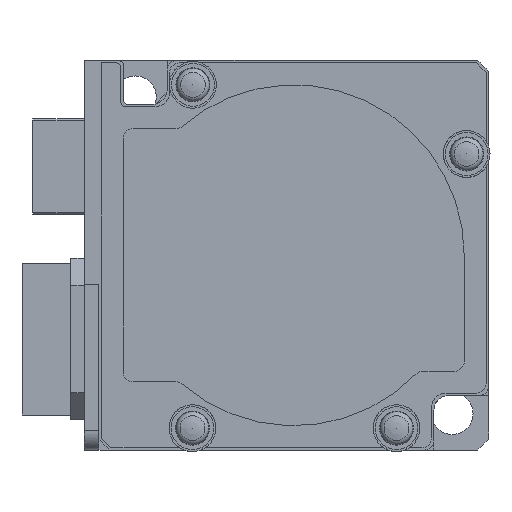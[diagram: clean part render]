
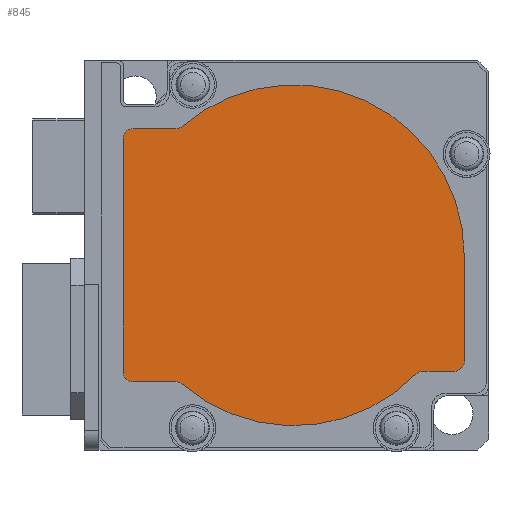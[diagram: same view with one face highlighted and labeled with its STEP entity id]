
A CAD part, left-side view. The second image highlights one B-rep face of the part: STEP entity #845.
In plain terms, the highlighted planar face has unit normal (-1, 0, 0).
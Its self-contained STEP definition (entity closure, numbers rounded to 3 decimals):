
#845 = ADVANCED_FACE( '', ( #2005 ), #2006, .F. );
#2005 = FACE_OUTER_BOUND( '', #3508, .T. );
#2006 = PLANE( '', #3509 );
#3508 = EDGE_LOOP( '', ( #6043, #6044, #6045, #6046, #6047, #6048, #6049, #6050, #6051, #6052, #6053, #6054, #6055 ) );
#3509 = AXIS2_PLACEMENT_3D( '', #6056, #6057, #6058 );
#6043 = ORIENTED_EDGE( '', *, *, #9202, .F. );
#6044 = ORIENTED_EDGE( '', *, *, #8946, .F. );
#6045 = ORIENTED_EDGE( '', *, *, #8767, .T. );
#6046 = ORIENTED_EDGE( '', *, *, #8560, .F. );
#6047 = ORIENTED_EDGE( '', *, *, #8507, .F. );
#6048 = ORIENTED_EDGE( '', *, *, #8621, .F. );
#6049 = ORIENTED_EDGE( '', *, *, #9302, .F. );
#6050 = ORIENTED_EDGE( '', *, *, #9303, .F. );
#6051 = ORIENTED_EDGE( '', *, *, #9304, .T. );
#6052 = ORIENTED_EDGE( '', *, *, #9305, .F. );
#6053 = ORIENTED_EDGE( '', *, *, #8954, .T. );
#6054 = ORIENTED_EDGE( '', *, *, #9306, .F. );
#6055 = ORIENTED_EDGE( '', *, *, #8966, .F. );
#6056 = CARTESIAN_POINT( '', ( -57.5, 0., 0. ) );
#6057 = DIRECTION( '', ( 1., 0., 0. ) );
#6058 = DIRECTION( '', ( 0., 0., -1. ) );
#8507 = EDGE_CURVE( '', #10132, #10133, #10134, .T. );
#8560 = EDGE_CURVE( '', #10133, #10221, #10222, .T. );
#8621 = EDGE_CURVE( '', #10323, #10132, #10324, .T. );
#8767 = EDGE_CURVE( '', #10586, #10221, #10587, .T. );
#8946 = EDGE_CURVE( '', #10586, #10899, #10900, .T. );
#8954 = EDGE_CURVE( '', #10911, #10912, #10913, .T. );
#8966 = EDGE_CURVE( '', #10929, #10930, #10931, .T. );
#9202 = EDGE_CURVE( '', #10899, #10929, #11267, .T. );
#9302 = EDGE_CURVE( '', #11414, #10323, #11415, .T. );
#9303 = EDGE_CURVE( '', #11416, #11414, #11417, .T. );
#9304 = EDGE_CURVE( '', #11416, #11418, #11419, .T. );
#9305 = EDGE_CURVE( '', #10911, #11418, #11420, .T. );
#9306 = EDGE_CURVE( '', #10930, #10912, #11421, .T. );
#10132 = VERTEX_POINT( '', #12466 );
#10133 = VERTEX_POINT( '', #12467 );
#10134 = CIRCLE( '', #12468, 1. );
#10221 = VERTEX_POINT( '', #12588 );
#10222 = LINE( '', #12589, #12590 );
#10323 = VERTEX_POINT( '', #12736 );
#10324 = LINE( '', #12737, #12738 );
#10586 = VERTEX_POINT( '', #13124 );
#10587 = CIRCLE( '', #13125, 1. );
#10899 = VERTEX_POINT( '', #13541 );
#10900 = CIRCLE( '', #13542, 17.5 );
#10911 = VERTEX_POINT( '', #13558 );
#10912 = VERTEX_POINT( '', #13559 );
#10913 = CIRCLE( '', #13560, 1. );
#10929 = VERTEX_POINT( '', #13584 );
#10930 = VERTEX_POINT( '', #13585 );
#10931 = CIRCLE( '', #13586, 1. );
#11267 = LINE( '', #14093, #14094 );
#11414 = VERTEX_POINT( '', #14301 );
#11415 = CIRCLE( '', #14302, 1. );
#11416 = VERTEX_POINT( '', #14303 );
#11417 = LINE( '', #14304, #14305 );
#11418 = VERTEX_POINT( '', #14306 );
#11419 = CIRCLE( '', #14307, 1. );
#11420 = CIRCLE( '', #14308, 17.5 );
#11421 = LINE( '', #14309, #14310 );
#12466 = CARTESIAN_POINT( '', ( -57.5, 17.5, 12. ) );
#12467 = CARTESIAN_POINT( '', ( -57.5, 16.5, 13. ) );
#12468 = AXIS2_PLACEMENT_3D( '', #15443, #15444, #15445 );
#12588 = CARTESIAN_POINT( '', ( -57.5, 12.093, 13. ) );
#12589 = CARTESIAN_POINT( '', ( -57.5, 16.5, 13. ) );
#12590 = VECTOR( '', #15494, 1000. );
#12736 = CARTESIAN_POINT( '', ( -57.5, 17.5, -12. ) );
#12737 = CARTESIAN_POINT( '', ( -57.5, 17.5, -12. ) );
#12738 = VECTOR( '', #15546, 1000. );
#13124 = CARTESIAN_POINT( '', ( -57.5, 11.44, 13.243 ) );
#13125 = AXIS2_PLACEMENT_3D( '', #15701, #15702, #15703 );
#13541 = CARTESIAN_POINT( '', ( -57.5, -17.5, 0. ) );
#13542 = AXIS2_PLACEMENT_3D( '', #15955, #15956, #15957 );
#13558 = CARTESIAN_POINT( '', ( -57.5, -12.544, -12.203 ) );
#13559 = CARTESIAN_POINT( '', ( -57.5, -13.26, -11.9 ) );
#13560 = AXIS2_PLACEMENT_3D( '', #15963, #15964, #15965 );
#13584 = CARTESIAN_POINT( '', ( -57.5, -17.5, -10.9 ) );
#13585 = CARTESIAN_POINT( '', ( -57.5, -16.5, -11.9 ) );
#13586 = AXIS2_PLACEMENT_3D( '', #15974, #15975, #15976 );
#14093 = CARTESIAN_POINT( '', ( -57.5, -17.5, 0. ) );
#14094 = VECTOR( '', #16189, 1000. );
#14301 = CARTESIAN_POINT( '', ( -57.5, 16.5, -13. ) );
#14302 = AXIS2_PLACEMENT_3D( '', #16286, #16287, #16288 );
#14303 = CARTESIAN_POINT( '', ( -57.5, 12.093, -13. ) );
#14304 = CARTESIAN_POINT( '', ( -57.5, 12.093, -13. ) );
#14305 = VECTOR( '', #16289, 1000. );
#14306 = CARTESIAN_POINT( '', ( -57.5, 11.44, -13.243 ) );
#14307 = AXIS2_PLACEMENT_3D( '', #16290, #16291, #16292 );
#14308 = AXIS2_PLACEMENT_3D( '', #16293, #16294, #16295 );
#14309 = CARTESIAN_POINT( '', ( -57.5, -16.5, -11.9 ) );
#14310 = VECTOR( '', #16296, 1000. );
#15443 = CARTESIAN_POINT( '', ( -57.5, 16.5, 12. ) );
#15444 = DIRECTION( '', ( 1., 0., 0. ) );
#15445 = DIRECTION( '', ( 0., 0., -1. ) );
#15494 = DIRECTION( '', ( 0., -1., 0. ) );
#15546 = DIRECTION( '', ( 0., 0., 1. ) );
#15701 = CARTESIAN_POINT( '', ( -57.5, 12.093, 14. ) );
#15702 = DIRECTION( '', ( 1., 0., 0. ) );
#15703 = DIRECTION( '', ( 0., 0., -1. ) );
#15955 = CARTESIAN_POINT( '', ( -57.5, 0., 0. ) );
#15956 = DIRECTION( '', ( 1., 0., 0. ) );
#15957 = DIRECTION( '', ( 0., 0., -1. ) );
#15963 = CARTESIAN_POINT( '', ( -57.5, -13.26, -12.9 ) );
#15964 = DIRECTION( '', ( 1., 0., 0. ) );
#15965 = DIRECTION( '', ( 0., 0., -1. ) );
#15974 = CARTESIAN_POINT( '', ( -57.5, -16.5, -10.9 ) );
#15975 = DIRECTION( '', ( 1., 0., 0. ) );
#15976 = DIRECTION( '', ( 0., 0., -1. ) );
#16189 = DIRECTION( '', ( 0., 0., -1. ) );
#16286 = CARTESIAN_POINT( '', ( -57.5, 16.5, -12. ) );
#16287 = DIRECTION( '', ( 1., 0., 0. ) );
#16288 = DIRECTION( '', ( 0., 0., -1. ) );
#16289 = DIRECTION( '', ( 0., 1., 0. ) );
#16290 = CARTESIAN_POINT( '', ( -57.5, 12.093, -14. ) );
#16291 = DIRECTION( '', ( 1., 0., 0. ) );
#16292 = DIRECTION( '', ( 0., 0., -1. ) );
#16293 = CARTESIAN_POINT( '', ( -57.5, 0., 0. ) );
#16294 = DIRECTION( '', ( 1., 0., 0. ) );
#16295 = DIRECTION( '', ( 0., 0., -1. ) );
#16296 = DIRECTION( '', ( 0., 1., 0. ) );
